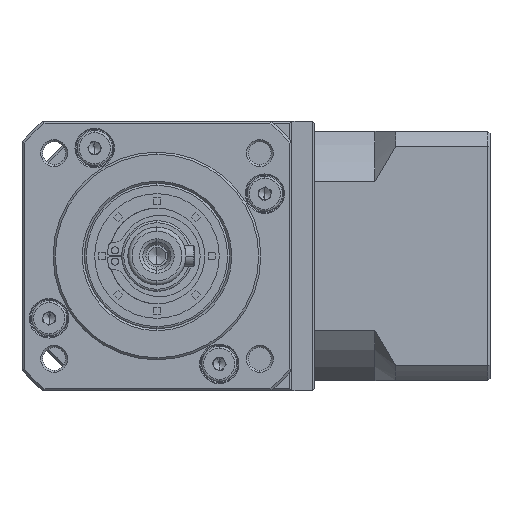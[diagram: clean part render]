
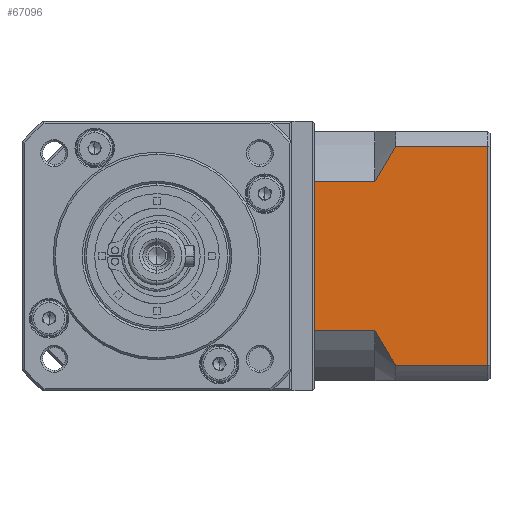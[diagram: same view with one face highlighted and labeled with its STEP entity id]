
A CAD part, left-side view. The second image highlights one B-rep face of the part: STEP entity #67096.
In plain terms, the highlighted planar face has unit normal (-1, 0, 0).
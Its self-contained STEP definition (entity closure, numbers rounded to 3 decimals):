
#4741 = VERTEX_POINT ( 'NONE', #130560 ) ;
#10468 = CARTESIAN_POINT ( 'NONE',  ( -19.598, -75.787, -137.429 ) ) ;
#10785 = LINE ( 'NONE', #23268, #108407 ) ;
#10973 = CARTESIAN_POINT ( 'NONE',  ( -19.598, -75.787, -137.429 ) ) ;
#12188 = ORIENTED_EDGE ( 'NONE', *, *, #54010, .F. ) ;
#13125 = ORIENTED_EDGE ( 'NONE', *, *, #19790, .T. ) ;
#13492 = CARTESIAN_POINT ( 'NONE',  ( -19.598, -76.535, -99.922 ) ) ;
#17152 = ORIENTED_EDGE ( 'NONE', *, *, #108241, .F. ) ;
#19510 = VECTOR ( 'NONE', #112880, 1000. ) ;
#19790 = EDGE_CURVE ( 'NONE', #71128, #4741, #10785, .T. ) ;
#22788 = ORIENTED_EDGE ( 'NONE', *, *, #82760, .T. ) ;
#22959 = EDGE_CURVE ( 'NONE', #134250, #88355, #49604, .T. ) ;
#23047 = B_SPLINE_CURVE_WITH_KNOTS ( 'NONE', 3,
 ( #101999, #102559, #39155, #127822, #51984, #140490 ),
 .UNSPECIFIED., .F., .F.,
 ( 4, 2, 4 ),
 ( 0.1, 0.104, 0.109 ),
 .UNSPECIFIED. ) ;
#23268 = CARTESIAN_POINT ( 'NONE',  ( -19.598, -102.987, -149.401 ) ) ;
#23513 = LINE ( 'NONE', #10973, #19510 ) ;
#26308 = ORIENTED_EDGE ( 'NONE', *, *, #22959, .F. ) ;
#30188 = ORIENTED_EDGE ( 'NONE', *, *, #94404, .T. ) ;
#30811 = ORIENTED_EDGE ( 'NONE', *, *, #139763, .F. ) ;
#34190 = ORIENTED_EDGE ( 'NONE', *, *, #106064, .T. ) ;
#34522 = VERTEX_POINT ( 'NONE', #121919 ) ;
#39002 = CARTESIAN_POINT ( 'NONE',  ( -19.598, -61.287, -149.401 ) ) ;
#39155 = CARTESIAN_POINT ( 'NONE',  ( -19.598, -77.338, -140.311 ) ) ;
#39971 = LINE ( 'NONE', #39002, #73870 ) ;
#49604 = LINE ( 'NONE', #164208, #83474 ) ;
#49995 = DIRECTION ( 'NONE',  ( 0., 1., 0. ) ) ;
#51472 = CARTESIAN_POINT ( 'NONE',  ( -19.598, -79.888, -94.304 ) ) ;
#51984 = CARTESIAN_POINT ( 'NONE',  ( -19.598, -79.886, -144.496 ) ) ;
#54010 = EDGE_CURVE ( 'NONE', #71128, #114312, #80327, .T. ) ;
#55673 = EDGE_LOOP ( 'NONE', ( #12188, #13125, #17152, #22788, #26308, #30188, #30811, #34190 ) ) ;
#61210 = PLANE ( 'NONE',  #86279 ) ;
#65343 = CARTESIAN_POINT ( 'NONE',  ( -19.598, -80.787, -92.944 ) ) ;
#67096 = ADVANCED_FACE ( 'NONE', ( #78592 ), #61210, .F. ) ;
#70287 = LINE ( 'NONE', #72224, #129613 ) ;
#71128 = VERTEX_POINT ( 'NONE', #85991 ) ;
#72224 = CARTESIAN_POINT ( 'NONE',  ( -19.598, -75.787, -92.944 ) ) ;
#73870 = VECTOR ( 'NONE', #115166, 1000. ) ;
#74511 = DIRECTION ( 'NONE',  ( 1., 0., 0. ) ) ;
#77046 = CARTESIAN_POINT ( 'NONE',  ( -19.598, -79.015, -95.682 ) ) ;
#78592 = FACE_OUTER_BOUND ( 'NONE', #55673, .T. ) ;
#80327 = LINE ( 'NONE', #125893, #147441 ) ;
#82760 = EDGE_CURVE ( 'NONE', #100766, #88355, #126260, .T. ) ;
#83474 = VECTOR ( 'NONE', #160478, 1000. ) ;
#85991 = CARTESIAN_POINT ( 'NONE',  ( -19.598, -102.987, -145.859 ) ) ;
#86279 = AXIS2_PLACEMENT_3D ( 'NONE', #150165, #74511, #162768 ) ;
#88355 = VERTEX_POINT ( 'NONE', #95348 ) ;
#89832 = CARTESIAN_POINT ( 'NONE',  ( -19.598, -77.339, -98.49 ) ) ;
#94404 = EDGE_CURVE ( 'NONE', #134250, #34522, #39971, .T. ) ;
#95348 = CARTESIAN_POINT ( 'NONE',  ( -19.598, -75.787, -101.374 ) ) ;
#97769 = DIRECTION ( 'NONE',  ( 0., -1., 0. ) ) ;
#100766 = VERTEX_POINT ( 'NONE', #65343 ) ;
#101999 = CARTESIAN_POINT ( 'NONE',  ( -19.598, -75.787, -137.429 ) ) ;
#102422 = CARTESIAN_POINT ( 'NONE',  ( -19.598, -61.287, -101.374 ) ) ;
#102559 = CARTESIAN_POINT ( 'NONE',  ( -19.598, -76.538, -138.886 ) ) ;
#102581 = CARTESIAN_POINT ( 'NONE',  ( -19.598, -75.787, -101.374 ) ) ;
#106064 = EDGE_CURVE ( 'NONE', #124013, #114312, #23047, .T. ) ;
#108241 = EDGE_CURVE ( 'NONE', #100766, #4741, #70287, .T. ) ;
#108407 = VECTOR ( 'NONE', #137516, 1000. ) ;
#112880 = DIRECTION ( 'NONE',  ( 0., 1., 0. ) ) ;
#114312 = VERTEX_POINT ( 'NONE', #147890 ) ;
#115166 = DIRECTION ( 'NONE',  ( 0., 0., -1. ) ) ;
#121919 = CARTESIAN_POINT ( 'NONE',  ( -19.598, -61.287, -137.429 ) ) ;
#124013 = VERTEX_POINT ( 'NONE', #10468 ) ;
#125893 = CARTESIAN_POINT ( 'NONE',  ( -19.598, -75.787, -145.859 ) ) ;
#126260 = B_SPLINE_CURVE_WITH_KNOTS ( 'NONE', 3,
 ( #139976, #51472, #77046, #89832, #13492, #102581 ),
 .UNSPECIFIED., .F., .F.,
 ( 4, 2, 4 ),
 ( 0.052, 0.057, 0.062 ),
 .UNSPECIFIED. ) ;
#127822 = CARTESIAN_POINT ( 'NONE',  ( -19.598, -79.012, -143.116 ) ) ;
#129613 = VECTOR ( 'NONE', #97769, 1000. ) ;
#130560 = CARTESIAN_POINT ( 'NONE',  ( -19.598, -102.987, -92.944 ) ) ;
#134250 = VERTEX_POINT ( 'NONE', #102422 ) ;
#137516 = DIRECTION ( 'NONE',  ( 0., 0., 1. ) ) ;
#139763 = EDGE_CURVE ( 'NONE', #124013, #34522, #23513, .T. ) ;
#139976 = CARTESIAN_POINT ( 'NONE',  ( -19.598, -80.787, -92.944 ) ) ;
#140490 = CARTESIAN_POINT ( 'NONE',  ( -19.598, -80.787, -145.859 ) ) ;
#147441 = VECTOR ( 'NONE', #49995, 1000. ) ;
#147890 = CARTESIAN_POINT ( 'NONE',  ( -19.598, -80.787, -145.859 ) ) ;
#150165 = CARTESIAN_POINT ( 'NONE',  ( -19.598, -103.487, -149.401 ) ) ;
#160478 = DIRECTION ( 'NONE',  ( 0., -1., 0. ) ) ;
#162768 = DIRECTION ( 'NONE',  ( 0., 1., 0. ) ) ;
#164208 = CARTESIAN_POINT ( 'NONE',  ( -19.598, -75.787, -101.374 ) ) ;
